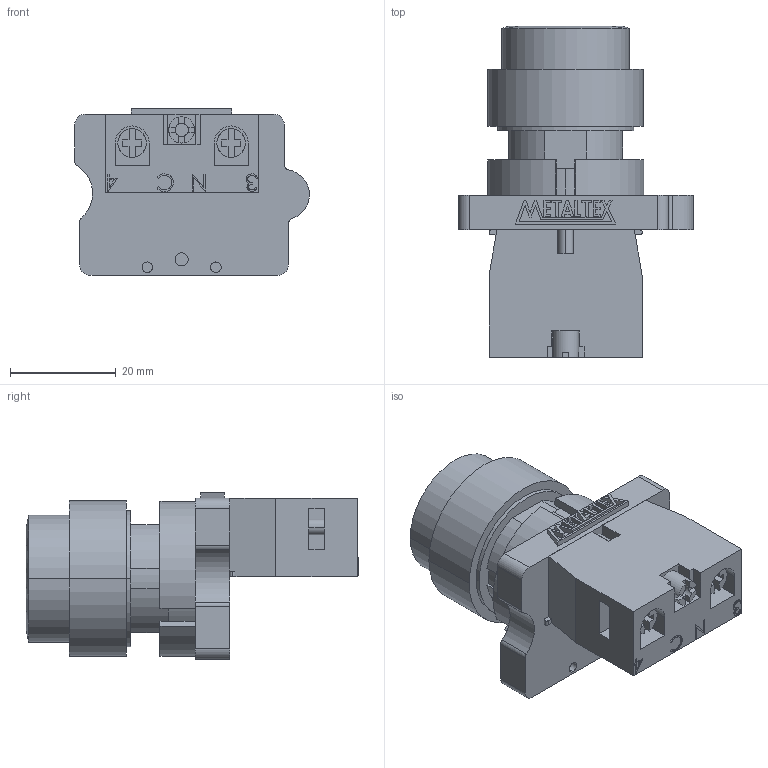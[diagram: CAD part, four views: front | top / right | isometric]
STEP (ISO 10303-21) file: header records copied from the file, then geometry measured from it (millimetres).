
FILE_DESCRIPTION (( 'STEP AP203' ), '1' );
FILE_NAME ('P20ARR-B-1A.STEP', '2018-01-17T14:02:17', ( '' ), ( '' ), 'SwSTEP 2.0', 'SolidWorks 2012', '' );
FILE_SCHEMA (( 'CONFIG_CONTROL_DESIGN' ));
Length unit declared in the file: millimetre
Products named in the file (4): P20ARR; M20-1A; METALTEX 18,98; P20ARR-B-1A
Assembly tree (3 placements, depth 2):
  P20ARR-B-1A
    P20ARR
    M20-1A
    METALTEX 18,98
Bounding box: 44.44 x 62.87 x 31.5 mm (x, y, z)
Volume: 34834.4 mm3; surface area: 12159.7 mm2
Topology: 9 solids, 9 shells, 357 faces, 931 edges, 615 vertices
Faces by surface type: plane 256, cylinder 72, bspline 25, torus 4
Entity records: 12567 total; most frequent: CARTESIAN_POINT 3364, ORIENTED_EDGE 1858, DIRECTION 1739, EDGE_CURVE 929, LINE 699, VECTOR 699, VERTEX_POINT 615, AXIS2_PLACEMENT_3D 520
